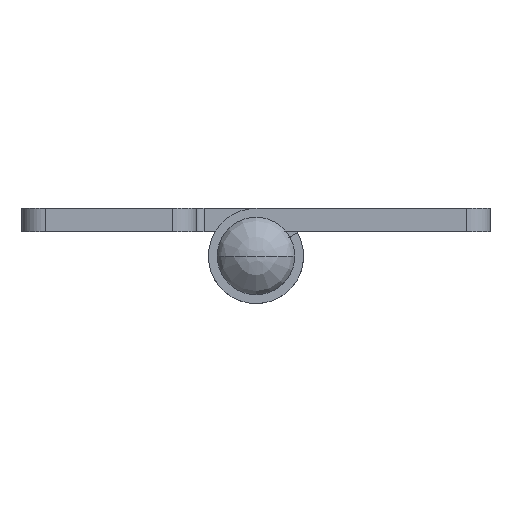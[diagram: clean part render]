
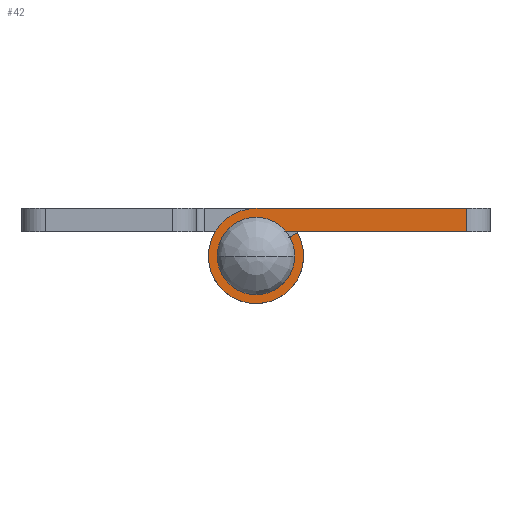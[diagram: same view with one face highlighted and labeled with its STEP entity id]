
A CAD part, front view. The second image highlights one B-rep face of the part: STEP entity #42.
In plain terms, the highlighted planar face has unit normal (0, -1, 0).
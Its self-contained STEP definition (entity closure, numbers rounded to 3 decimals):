
#42=ADVANCED_FACE('',(#120),#1372,.T.);
#120=FACE_OUTER_BOUND('',#204,.T.);
#204=EDGE_LOOP('',(#360,#361,#362,#363,#364,#365));
#360=ORIENTED_EDGE('',*,*,#712,.F.);
#361=ORIENTED_EDGE('',*,*,#708,.F.);
#362=ORIENTED_EDGE('',*,*,#724,.F.);
#363=ORIENTED_EDGE('',*,*,#721,.F.);
#364=ORIENTED_EDGE('',*,*,#718,.F.);
#365=ORIENTED_EDGE('',*,*,#798,.F.);
#708=EDGE_CURVE('',#1212,#1213,#1052,.T.);
#712=EDGE_CURVE('',#1213,#1260,#920,.T.);
#718=EDGE_CURVE('',#1266,#1216,#926,.T.);
#721=EDGE_CURVE('',#1216,#1218,#1054,.T.);
#724=EDGE_CURVE('',#1218,#1212,#929,.T.);
#798=EDGE_CURVE('',#1260,#1266,#965,.T.);
#920=B_SPLINE_CURVE_WITH_KNOTS('',1,(#2008,#2009),.UNSPECIFIED.,.F.,.F.,
(2,2),(33.,60.),.UNSPECIFIED.);
#926=B_SPLINE_CURVE_WITH_KNOTS('',1,(#2020,#2021),.UNSPECIFIED.,.F.,.F.,
(2,2),(69.,96.),.UNSPECIFIED.);
#929=B_SPLINE_CURVE_WITH_KNOTS('',1,(#2034,#2035),.UNSPECIFIED.,.F.,.F.,
(2,2),(112.201,115.201),.UNSPECIFIED.);
#965=B_SPLINE_CURVE_WITH_KNOTS('',1,(#2214,#2215),.UNSPECIFIED.,.F.,.F.,
(2,2),(0.,3.),.UNSPECIFIED.);
#1052=TRIMMED_CURVE($,#1132,(#1999),(#2000),.T.,.CARTESIAN.);
#1054=TRIMMED_CURVE($,#1134,(#2027),(#2028),.T.,.CARTESIAN.);
#1132=CIRCLE('',#1544,6.1);
#1134=CIRCLE('',#1546,3.1);
#1212=VERTEX_POINT('',#1926);
#1213=VERTEX_POINT('',#1927);
#1216=VERTEX_POINT('',#1930);
#1218=VERTEX_POINT('',#1932);
#1260=VERTEX_POINT('',#1974);
#1266=VERTEX_POINT('',#1980);
#1372=PLANE('',#1542);
#1542=AXIS2_PLACEMENT_3D('',#1924,#1693,$);
#1544=AXIS2_PLACEMENT_3D($,#1998,#1695,#1696);
#1546=AXIS2_PLACEMENT_3D($,#2026,#1699,#1700);
#1693=DIRECTION('',(0.,-1.,0.));
#1695=DIRECTION('',(0.,1.,0.));
#1696=DIRECTION('',(0.87,0.,0.492));
#1699=DIRECTION('',(0.,-1.,0.));
#1700=DIRECTION('',(0.,0.,1.));
#1924=CARTESIAN_POINT('',(-10.458,0.,4.823));
#1926=CARTESIAN_POINT('',(5.464,0.,0.2));
#1927=CARTESIAN_POINT('',(0.154,0.,3.298));
#1930=CARTESIAN_POINT('',(0.154,0.,0.298));
#1932=CARTESIAN_POINT('',(2.854,0.,-1.279));
#1974=CARTESIAN_POINT('',(27.154,0.,3.298));
#1980=CARTESIAN_POINT('',(27.154,0.,0.298));
#1998=CARTESIAN_POINT('',(0.154,0.,-2.802));
#1999=CARTESIAN_POINT('',(5.464,0.,0.2));
#2000=CARTESIAN_POINT('',(0.154,0.,3.298));
#2008=CARTESIAN_POINT('',(0.154,0.,3.298));
#2009=CARTESIAN_POINT('',(27.154,0.,3.298));
#2020=CARTESIAN_POINT('',(27.154,0.,0.298));
#2021=CARTESIAN_POINT('',(0.154,0.,0.298));
#2026=CARTESIAN_POINT('',(0.154,0.,-2.802));
#2027=CARTESIAN_POINT('',(0.154,0.,0.298));
#2028=CARTESIAN_POINT('',(2.854,0.,-1.279));
#2034=CARTESIAN_POINT('',(2.854,0.,-1.279));
#2035=CARTESIAN_POINT('',(5.464,0.,0.2));
#2214=CARTESIAN_POINT('',(27.154,0.,3.298));
#2215=CARTESIAN_POINT('',(27.154,0.,0.298));
